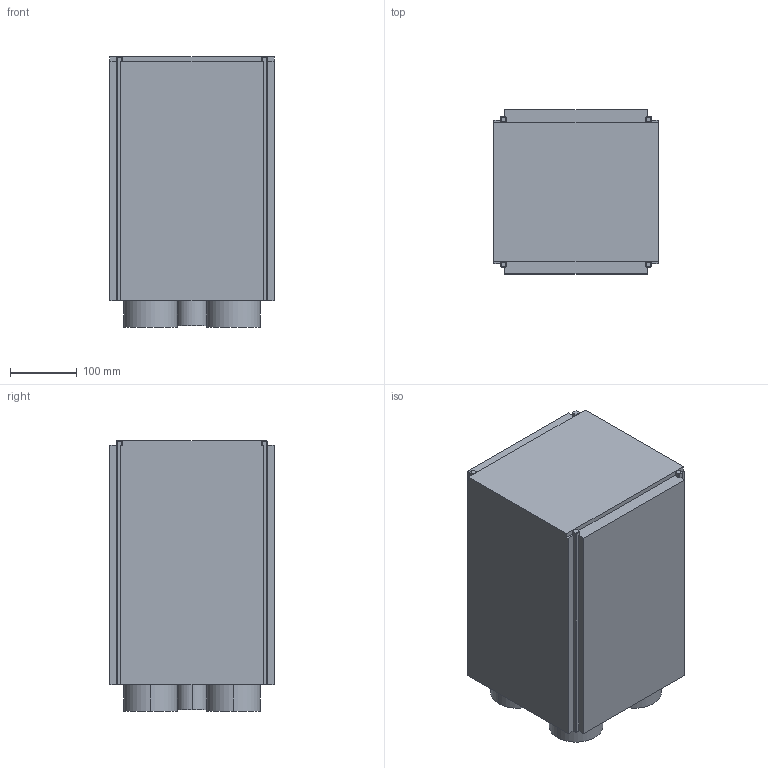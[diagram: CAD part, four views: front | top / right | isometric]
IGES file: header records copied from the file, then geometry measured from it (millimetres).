
Start section:  PTC IGES file: C:\Users\gleb\z) Windows folders\Desktop\1) ISIPOD Fligh t Model\4) CubeSat_Dims\160916_Updated_CubeSat_ISIS_Advised_Max_Dimensio ns\160916_RevC_12U-XL_CubeSat_ISIS_Advised_Max_Dimensions.igs
Global section: file name: C:\Users\gleb\z) Windows folders\Desktop\1) ISIPOD Flight Model\4) CubeSat_Dims\160916_Updated_CubeSat_ISIS_Advised_Max_Dimensions\160916_RevC_12U-XL_CubeSat_ISIS_Advised_Max_Dimensions.igs; native system: gleb by Parametric Technology Corporation; preprocessor: 2003250; author: Unknown; organization: PTC; date: 160916.095035; units: millimetre
Bounding box: 246.3 x 246.3 x 405.9 mm (x, y, z)
Volume: 22680856.4 mm3; surface area: 525067.2 mm2
Topology: 1 solids, 1 shells, 85 faces, 234 edges, 156 vertices
Faces by surface type: bspline 75, revolution 10
